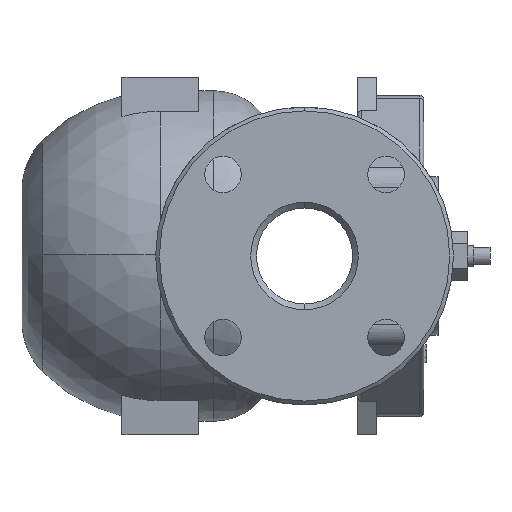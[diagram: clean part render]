
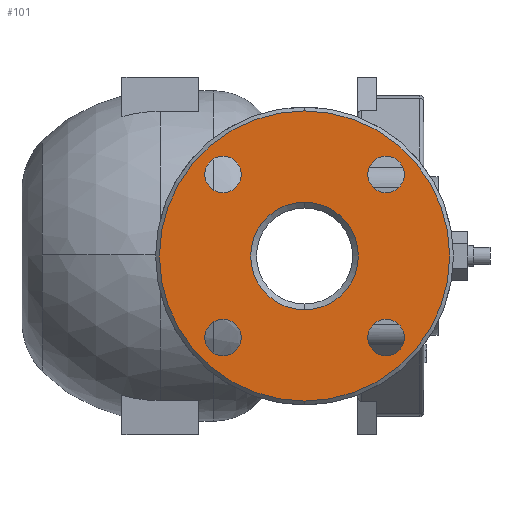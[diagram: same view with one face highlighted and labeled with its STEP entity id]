
A CAD part, left-side view. The second image highlights one B-rep face of the part: STEP entity #101.
In plain terms, the highlighted planar face has unit normal (-1, 0, 0).
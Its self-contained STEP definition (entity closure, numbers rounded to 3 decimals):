
#101=ADVANCED_FACE('',(#865,#866,#867,#868,#869,#870),#864,.T.);
#864=PLANE('',#2663);
#865=FACE_OUTER_BOUND('',#2664,.T.);
#866=FACE_BOUND('',#2665,.T.);
#867=FACE_BOUND('',#2666,.T.);
#868=FACE_BOUND('',#2667,.T.);
#869=FACE_BOUND('',#2668,.T.);
#870=FACE_BOUND('',#2669,.T.);
#2660=CARTESIAN_POINT('',(-145.,-140.77,-161.));
#2661=DIRECTION('',(-1.,0.,0.));
#2662=DIRECTION('',(0.,0.,1.));
#2663=AXIS2_PLACEMENT_3D('',#2660,#2661,#2662);
#2664=EDGE_LOOP('',(#4383,#4384));
#2665=EDGE_LOOP('',(#4385,#4386));
#2666=EDGE_LOOP('',(#4387,#4388));
#2667=EDGE_LOOP('',(#4389,#4390));
#2668=EDGE_LOOP('',(#4391,#4392));
#2669=EDGE_LOOP('',(#4393,#4394));
#4383=ORIENTED_EDGE('',*,*,#5329,.T.);
#4384=ORIENTED_EDGE('',*,*,#5330,.T.);
#4385=ORIENTED_EDGE('',*,*,#5331,.T.);
#4386=ORIENTED_EDGE('',*,*,#5332,.T.);
#4387=ORIENTED_EDGE('',*,*,#5333,.T.);
#4388=ORIENTED_EDGE('',*,*,#5334,.T.);
#4389=ORIENTED_EDGE('',*,*,#5335,.T.);
#4390=ORIENTED_EDGE('',*,*,#5336,.T.);
#4391=ORIENTED_EDGE('',*,*,#5337,.T.);
#4392=ORIENTED_EDGE('',*,*,#5338,.T.);
#4393=ORIENTED_EDGE('',*,*,#5339,.T.);
#4394=ORIENTED_EDGE('',*,*,#5340,.T.);
#5329=EDGE_CURVE('',#7150,#7151,#7152,.T.);
#5330=EDGE_CURVE('',#7151,#7150,#7158,.T.);
#5331=EDGE_CURVE('',#7164,#7165,#7166,.T.);
#5332=EDGE_CURVE('',#7165,#7164,#7172,.T.);
#5333=EDGE_CURVE('',#7178,#7179,#7180,.T.);
#5334=EDGE_CURVE('',#7179,#7178,#7186,.T.);
#5335=EDGE_CURVE('',#7192,#7193,#7194,.T.);
#5336=EDGE_CURVE('',#7193,#7192,#7200,.T.);
#5337=EDGE_CURVE('',#7206,#7207,#7208,.T.);
#5338=EDGE_CURVE('',#7207,#7206,#7214,.T.);
#5339=EDGE_CURVE('',#7220,#7221,#7222,.T.);
#5340=EDGE_CURVE('',#7221,#7220,#7228,.T.);
#7150=VERTEX_POINT('',#10115);
#7151=VERTEX_POINT('',#10116);
#7152=CIRCLE('',#10120,75.5);
#7158=CIRCLE('',#10124,75.5);
#7164=VERTEX_POINT('',#10125);
#7165=VERTEX_POINT('',#10126);
#7166=CIRCLE('',#10130,9.5);
#7172=CIRCLE('',#10134,9.5);
#7178=VERTEX_POINT('',#10135);
#7179=VERTEX_POINT('',#10136);
#7180=CIRCLE('',#10140,9.5);
#7186=CIRCLE('',#10144,9.5);
#7192=VERTEX_POINT('',#10145);
#7193=VERTEX_POINT('',#10146);
#7194=CIRCLE('',#10150,9.5);
#7200=CIRCLE('',#10154,9.5);
#7206=VERTEX_POINT('',#10155);
#7207=VERTEX_POINT('',#10156);
#7208=CIRCLE('',#10160,9.5);
#7214=CIRCLE('',#10164,9.5);
#7220=VERTEX_POINT('',#10165);
#7221=VERTEX_POINT('',#10166);
#7222=CIRCLE('',#10170,28.);
#7228=CIRCLE('',#10174,28.);
#10115=CARTESIAN_POINT('',(-145.,0.,75.5));
#10116=CARTESIAN_POINT('',(-145.,0.,-75.5));
#10117=CARTESIAN_POINT('',(-145.,0.,0.));
#10118=DIRECTION('',(-1.,0.,0.));
#10119=DIRECTION('',(0.,0.,1.));
#10120=AXIS2_PLACEMENT_3D('',#10117,#10118,#10119);
#10121=CARTESIAN_POINT('',(-145.,0.,0.));
#10122=DIRECTION('',(-1.,0.,0.));
#10123=DIRECTION('',(0.,0.,1.));
#10124=AXIS2_PLACEMENT_3D('',#10121,#10122,#10123);
#10125=CARTESIAN_POINT('',(-145.,42.426,51.926));
#10126=CARTESIAN_POINT('',(-145.,42.426,32.926));
#10127=CARTESIAN_POINT('',(-145.,42.426,42.426));
#10128=DIRECTION('',(1.,0.,0.));
#10129=DIRECTION('',(0.,0.,1.));
#10130=AXIS2_PLACEMENT_3D('',#10127,#10128,#10129);
#10131=CARTESIAN_POINT('',(-145.,42.426,42.426));
#10132=DIRECTION('',(1.,0.,0.));
#10133=DIRECTION('',(0.,0.,1.));
#10134=AXIS2_PLACEMENT_3D('',#10131,#10132,#10133);
#10135=CARTESIAN_POINT('',(-145.,-42.426,51.926));
#10136=CARTESIAN_POINT('',(-145.,-42.426,32.926));
#10137=CARTESIAN_POINT('',(-145.,-42.426,42.426));
#10138=DIRECTION('',(1.,0.,0.));
#10139=DIRECTION('',(0.,0.,1.));
#10140=AXIS2_PLACEMENT_3D('',#10137,#10138,#10139);
#10141=CARTESIAN_POINT('',(-145.,-42.426,42.426));
#10142=DIRECTION('',(1.,0.,0.));
#10143=DIRECTION('',(0.,0.,1.));
#10144=AXIS2_PLACEMENT_3D('',#10141,#10142,#10143);
#10145=CARTESIAN_POINT('',(-145.,-42.426,-32.926));
#10146=CARTESIAN_POINT('',(-145.,-42.426,-51.926));
#10147=CARTESIAN_POINT('',(-145.,-42.426,-42.426));
#10148=DIRECTION('',(1.,0.,0.));
#10149=DIRECTION('',(0.,0.,1.));
#10150=AXIS2_PLACEMENT_3D('',#10147,#10148,#10149);
#10151=CARTESIAN_POINT('',(-145.,-42.426,-42.426));
#10152=DIRECTION('',(1.,0.,0.));
#10153=DIRECTION('',(0.,0.,1.));
#10154=AXIS2_PLACEMENT_3D('',#10151,#10152,#10153);
#10155=CARTESIAN_POINT('',(-145.,42.426,-32.926));
#10156=CARTESIAN_POINT('',(-145.,42.426,-51.926));
#10157=CARTESIAN_POINT('',(-145.,42.426,-42.426));
#10158=DIRECTION('',(1.,0.,0.));
#10159=DIRECTION('',(0.,0.,1.));
#10160=AXIS2_PLACEMENT_3D('',#10157,#10158,#10159);
#10161=CARTESIAN_POINT('',(-145.,42.426,-42.426));
#10162=DIRECTION('',(1.,0.,0.));
#10163=DIRECTION('',(0.,0.,1.));
#10164=AXIS2_PLACEMENT_3D('',#10161,#10162,#10163);
#10165=CARTESIAN_POINT('',(-145.,0.,28.));
#10166=CARTESIAN_POINT('',(-145.,0.,-28.));
#10167=CARTESIAN_POINT('',(-145.,0.,0.));
#10168=DIRECTION('',(1.,0.,0.));
#10169=DIRECTION('',(0.,0.,1.));
#10170=AXIS2_PLACEMENT_3D('',#10167,#10168,#10169);
#10171=CARTESIAN_POINT('',(-145.,0.,0.));
#10172=DIRECTION('',(1.,0.,0.));
#10173=DIRECTION('',(0.,0.,1.));
#10174=AXIS2_PLACEMENT_3D('',#10171,#10172,#10173);
